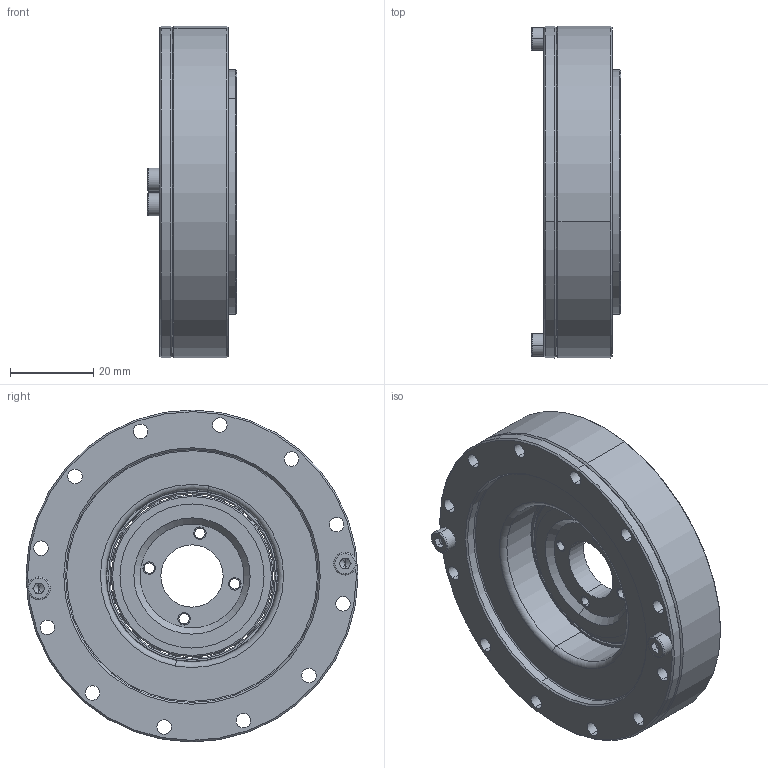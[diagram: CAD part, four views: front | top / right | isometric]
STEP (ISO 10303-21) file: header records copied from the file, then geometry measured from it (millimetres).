
FILE_DESCRIPTION((''),'2;1');
FILE_NAME('LHD-17-XX-U-I_ASM','2019-10-23T',('Administrator'),(''),'PRO/ENGINEER BY PARAMETRIC TECHNOLOGY CORPORATION, 2014200','PRO/ENGINEER BY PARAMETRIC TECHNOLOGY CORPORATION, 2014200','');
FILE_SCHEMA(('AUTOMOTIVE_DESIGN { 1 0 10303 214 1 1 1 1 }'));
Length unit declared in the file: millimetre
Products named in the file (13): RZC内外圈__1; 悵厥_1; LHD-17-XXX-P01_1; MANIFOLD_SOLID_BREP_12587; MANIFOLD_SOLID_BREP_15221; LHD-17-XXX-P04_1_ASM; YF-17_1; DIN_912_M3_X_6_---_6C_1; LHD-17-XXX-P02_1; DIN_912_M2_X_6_---_6C_1; PRT0137_1; LHD-17-XXX-C-I_ASM_1_ASM; LHD-17-XX-U-I_ASM
Assembly tree (18 placements, depth 4):
  LHD-17-XX-U-I_ASM
    LHD-17-XXX-C-I_ASM_1_ASM
      RZC内外圈__1
      悵厥_1
      LHD-17-XXX-P01_1
      LHD-17-XXX-P04_1_ASM
        MANIFOLD_SOLID_BREP_12587
        MANIFOLD_SOLID_BREP_15221
      YF-17_1
      DIN_912_M3_X_6_---_6C_1  x2
      LHD-17-XXX-P02_1
      DIN_912_M2_X_6_---_6C_1  x6
      PRT0137_1
Bounding box: 21.5 x 80 x 80 mm (x, y, z)
Volume: 53994.6 mm3; surface area: 52328.3 mm2
Topology: 16 solids, 21 shells, 801 faces, 2111 edges, 1259 vertices
Faces by surface type: cylinder 328, plane 211, cone 110, sphere 80, torus 72
Entity records: 22306 total; most frequent: CARTESIAN_POINT 4950, DIRECTION 3968, ORIENTED_EDGE 3238, AXIS2_PLACEMENT_3D 1742, EDGE_CURVE 1627, VERTEX_POINT 1061, CIRCLE 1051, EDGE_LOOP 804
